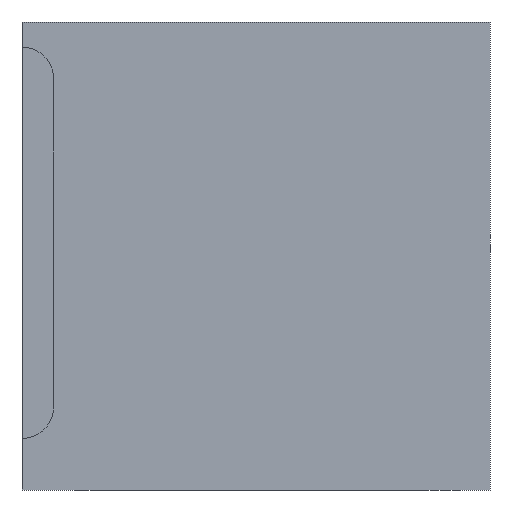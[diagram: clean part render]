
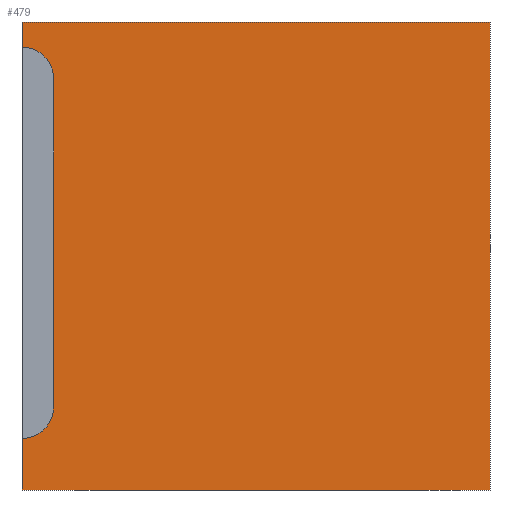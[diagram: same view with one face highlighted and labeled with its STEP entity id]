
A CAD part, front view. The second image highlights one B-rep face of the part: STEP entity #479.
In plain terms, the highlighted planar face has unit normal (0, -1, 0).
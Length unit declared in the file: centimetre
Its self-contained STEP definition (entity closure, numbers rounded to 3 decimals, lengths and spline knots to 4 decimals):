
#1 = CARTESIAN_POINT ( 'NONE',  ( 0., 0., 177.8844 ) ) ;
#5 = CARTESIAN_POINT ( 'NONE',  ( 0., 0., 1000. ) ) ;
#17 = ORIENTED_EDGE ( 'NONE', *, *, #108, .F. ) ;
#21 = VERTEX_POINT ( 'NONE', #5 ) ;
#24 = VERTEX_POINT ( 'NONE', #393 ) ;
#31 = CARTESIAN_POINT ( 'NONE',  ( 67.7713, 0., 177.8844 ) ) ;
#38 = LINE ( 'NONE', #418, #350 ) ;
#40 = CARTESIAN_POINT ( 'NONE',  ( 0., 0., 110.1131 ) ) ;
#56 = VERTEX_POINT ( 'NONE', #141 ) ;
#71 = EDGE_CURVE ( 'NONE', #24, #244, #311, .T. ) ;
#85 = LINE ( 'NONE', #542, #473 ) ;
#108 = EDGE_CURVE ( 'NONE', #151, #152, #387, .T. ) ;
#116 = LINE ( 'NONE', #161, #325 ) ;
#131 = PLANE ( 'NONE',  #509 ) ;
#141 = CARTESIAN_POINT ( 'NONE',  ( 1000., 0., 1000. ) ) ;
#151 = VERTEX_POINT ( 'NONE', #31 ) ;
#152 = VERTEX_POINT ( 'NONE', #163 ) ;
#161 = CARTESIAN_POINT ( 'NONE',  ( 0., 0., 1000. ) ) ;
#163 = CARTESIAN_POINT ( 'NONE',  ( 67.7713, 0., 878.661 ) ) ;
#181 = DIRECTION ( 'NONE',  ( 0., 0., 1. ) ) ;
#191 = DIRECTION ( 'NONE',  ( 0., 0., 1. ) ) ;
#197 = CIRCLE ( 'NONE', #452, 67.7713 ) ;
#216 = DIRECTION ( 'NONE',  ( 0., 0., 1. ) ) ;
#218 = VECTOR ( 'NONE', #528, 100. ) ;
#224 = CARTESIAN_POINT ( 'NONE',  ( 67.7713, 0., 878.661 ) ) ;
#232 = ORIENTED_EDGE ( 'NONE', *, *, #281, .T. ) ;
#244 = VERTEX_POINT ( 'NONE', #245 ) ;
#245 = CARTESIAN_POINT ( 'NONE',  ( 1000., 0., 0. ) ) ;
#255 = EDGE_CURVE ( 'NONE', #533, #24, #411, .T. ) ;
#257 = DIRECTION ( 'NONE',  ( 0., 1., 0. ) ) ;
#259 = DIRECTION ( 'NONE',  ( 0., -1., 0. ) ) ;
#262 = AXIS2_PLACEMENT_3D ( 'NONE', #339, #259, #181 ) ;
#277 = VERTEX_POINT ( 'NONE', #484 ) ;
#281 = EDGE_CURVE ( 'NONE', #21, #277, #116, .T. ) ;
#285 = VECTOR ( 'NONE', #191, 100. ) ;
#297 = DIRECTION ( 'NONE',  ( 1., 0., 0. ) ) ;
#300 = CARTESIAN_POINT ( 'NONE',  ( 0., 0., 0. ) ) ;
#311 = LINE ( 'NONE', #300, #349 ) ;
#325 = VECTOR ( 'NONE', #486, 100. ) ;
#330 = EDGE_CURVE ( 'NONE', #21, #56, #38, .T. ) ;
#335 = CARTESIAN_POINT ( 'NONE',  ( 0., 0., 1000. ) ) ;
#338 = DIRECTION ( 'NONE',  ( 0., 0., -1. ) ) ;
#339 = CARTESIAN_POINT ( 'NONE',  ( 0., 0., 878.661 ) ) ;
#348 = ORIENTED_EDGE ( 'NONE', *, *, #377, .T. ) ;
#349 = VECTOR ( 'NONE', #501, 100. ) ;
#350 = VECTOR ( 'NONE', #297, 100. ) ;
#354 = EDGE_CURVE ( 'NONE', #152, #277, #489, .T. ) ;
#377 = EDGE_CURVE ( 'NONE', #151, #533, #197, .T. ) ;
#387 = LINE ( 'NONE', #224, #285 ) ;
#393 = CARTESIAN_POINT ( 'NONE',  ( 0., 0., 0. ) ) ;
#402 = ORIENTED_EDGE ( 'NONE', *, *, #330, .F. ) ;
#411 = LINE ( 'NONE', #335, #218 ) ;
#418 = CARTESIAN_POINT ( 'NONE',  ( 0., 0., 1000. ) ) ;
#436 = ORIENTED_EDGE ( 'NONE', *, *, #354, .F. ) ;
#448 = EDGE_CURVE ( 'NONE', #56, #244, #85, .T. ) ;
#452 = AXIS2_PLACEMENT_3D ( 'NONE', #1, #257, #216 ) ;
#454 = FACE_OUTER_BOUND ( 'NONE', #525, .T. ) ;
#457 = DIRECTION ( 'NONE',  ( 0., 1., 0. ) ) ;
#473 = VECTOR ( 'NONE', #338, 100. ) ;
#474 = ORIENTED_EDGE ( 'NONE', *, *, #71, .T. ) ;
#477 = ORIENTED_EDGE ( 'NONE', *, *, #255, .T. ) ;
#479 = ADVANCED_FACE ( 'NONE', ( #454 ), #131, .F. ) ;
#483 = ORIENTED_EDGE ( 'NONE', *, *, #448, .F. ) ;
#484 = CARTESIAN_POINT ( 'NONE',  ( 0., 0., 946.4323 ) ) ;
#486 = DIRECTION ( 'NONE',  ( 0., 0., -1. ) ) ;
#489 = CIRCLE ( 'NONE', #262, 67.7713 ) ;
#496 = CARTESIAN_POINT ( 'NONE',  ( 0., 0., 1000. ) ) ;
#501 = DIRECTION ( 'NONE',  ( 1., 0., 0. ) ) ;
#502 = DIRECTION ( 'NONE',  ( 0., 0., 1. ) ) ;
#509 = AXIS2_PLACEMENT_3D ( 'NONE', #496, #457, #502 ) ;
#525 = EDGE_LOOP ( 'NONE', ( #17, #348, #477, #474, #483, #402, #232, #436 ) ) ;
#528 = DIRECTION ( 'NONE',  ( 0., 0., -1. ) ) ;
#533 = VERTEX_POINT ( 'NONE', #40 ) ;
#542 = CARTESIAN_POINT ( 'NONE',  ( 1000., 0., 1000. ) ) ;
